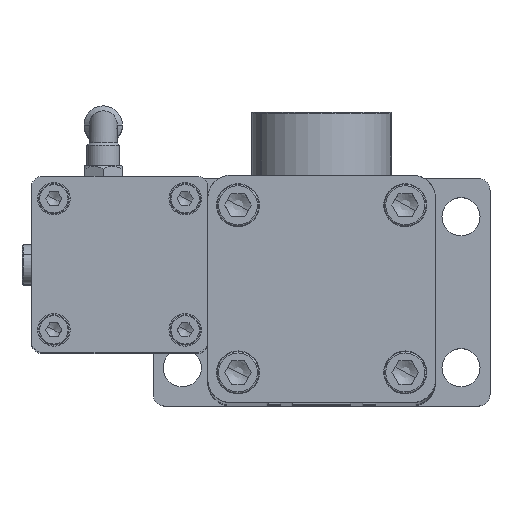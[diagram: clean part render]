
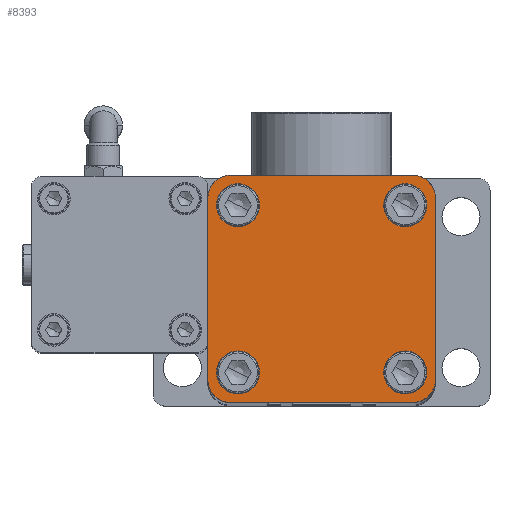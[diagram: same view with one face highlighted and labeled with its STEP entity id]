
A CAD part, top view. The second image highlights one B-rep face of the part: STEP entity #8393.
In plain terms, the highlighted planar face has unit normal (0, 0, 1).
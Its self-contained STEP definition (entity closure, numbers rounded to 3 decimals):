
#8047=CARTESIAN_POINT('Axis2P3D Location',(-39.,39.,956.)) ;
#8051=CARTESIAN_POINT('Vertex',(-49.,39.,956.)) ;
#8053=CARTESIAN_POINT('Vertex',(-39.,49.,956.)) ;
#8093=CARTESIAN_POINT('Vertex',(39.,49.,956.)) ;
#8101=CARTESIAN_POINT('Line Origine',(0.,49.,956.)) ;
#8118=CARTESIAN_POINT('Axis2P3D Location',(39.,39.,956.)) ;
#8122=CARTESIAN_POINT('Vertex',(49.,39.,956.)) ;
#8155=CARTESIAN_POINT('Vertex',(49.,-39.,956.)) ;
#8163=CARTESIAN_POINT('Line Origine',(49.,0.,956.)) ;
#8180=CARTESIAN_POINT('Axis2P3D Location',(39.,-39.,956.)) ;
#8184=CARTESIAN_POINT('Vertex',(39.,-49.,956.)) ;
#8217=CARTESIAN_POINT('Vertex',(-49.,-39.,956.)) ;
#8220=CARTESIAN_POINT('Line Origine',(-49.,0.,956.)) ;
#8248=CARTESIAN_POINT('Vertex',(-39.,-49.,956.)) ;
#8256=CARTESIAN_POINT('Line Origine',(0.,-49.,956.)) ;
#8294=CARTESIAN_POINT('Axis2P3D Location',(-39.,-39.,956.)) ;
#8306=CARTESIAN_POINT('Axis2P3D Location',(0.,0.,956.)) ;
#8321=CARTESIAN_POINT('Axis2P3D Location',(36.,36.,956.)) ;
#8325=CARTESIAN_POINT('Vertex',(45.25,36.,956.)) ;
#8327=CARTESIAN_POINT('Vertex',(26.75,36.,956.)) ;
#8330=CARTESIAN_POINT('Axis2P3D Location',(36.,36.,956.)) ;
#8339=CARTESIAN_POINT('Axis2P3D Location',(-36.,36.,956.)) ;
#8343=CARTESIAN_POINT('Vertex',(-26.75,36.,956.)) ;
#8345=CARTESIAN_POINT('Vertex',(-45.25,36.,956.)) ;
#8348=CARTESIAN_POINT('Axis2P3D Location',(-36.,36.,956.)) ;
#8357=CARTESIAN_POINT('Axis2P3D Location',(-36.,-36.,956.)) ;
#8361=CARTESIAN_POINT('Vertex',(-26.75,-36.,956.)) ;
#8363=CARTESIAN_POINT('Vertex',(-45.25,-36.,956.)) ;
#8366=CARTESIAN_POINT('Axis2P3D Location',(-36.,-36.,956.)) ;
#8375=CARTESIAN_POINT('Axis2P3D Location',(36.,-36.,956.)) ;
#8379=CARTESIAN_POINT('Vertex',(45.25,-36.,956.)) ;
#8381=CARTESIAN_POINT('Vertex',(26.75,-36.,956.)) ;
#8384=CARTESIAN_POINT('Axis2P3D Location',(36.,-36.,956.)) ;
#8048=DIRECTION('Axis2P3D Direction',(0.,0.,1.)) ;
#8102=DIRECTION('Vector Direction',(1.,0.,0.)) ;
#8119=DIRECTION('Axis2P3D Direction',(0.,-0.,1.)) ;
#8164=DIRECTION('Vector Direction',(0.,-1.,0.)) ;
#8181=DIRECTION('Axis2P3D Direction',(0.,0.,1.)) ;
#8221=DIRECTION('Vector Direction',(0.,1.,0.)) ;
#8257=DIRECTION('Vector Direction',(-1.,0.,0.)) ;
#8295=DIRECTION('Axis2P3D Direction',(0.,0.,1.)) ;
#8307=DIRECTION('Axis2P3D Direction',(0.,0.,1.)) ;
#8308=DIRECTION('Axis2P3D XDirection',(1.,0.,0.)) ;
#8322=DIRECTION('Axis2P3D Direction',(0.,0.,1.)) ;
#8331=DIRECTION('Axis2P3D Direction',(0.,0.,1.)) ;
#8340=DIRECTION('Axis2P3D Direction',(0.,0.,1.)) ;
#8349=DIRECTION('Axis2P3D Direction',(0.,0.,1.)) ;
#8358=DIRECTION('Axis2P3D Direction',(0.,0.,1.)) ;
#8367=DIRECTION('Axis2P3D Direction',(0.,0.,1.)) ;
#8376=DIRECTION('Axis2P3D Direction',(0.,0.,1.)) ;
#8385=DIRECTION('Axis2P3D Direction',(0.,0.,1.)) ;
#8049=AXIS2_PLACEMENT_3D('Circle Axis2P3D',#8047,#8048,$) ;
#8120=AXIS2_PLACEMENT_3D('Circle Axis2P3D',#8118,#8119,$) ;
#8182=AXIS2_PLACEMENT_3D('Circle Axis2P3D',#8180,#8181,$) ;
#8296=AXIS2_PLACEMENT_3D('Circle Axis2P3D',#8294,#8295,$) ;
#8309=AXIS2_PLACEMENT_3D('Plane Axis2P3D',#8306,#8307,#8308) ;
#8323=AXIS2_PLACEMENT_3D('Circle Axis2P3D',#8321,#8322,$) ;
#8332=AXIS2_PLACEMENT_3D('Circle Axis2P3D',#8330,#8331,$) ;
#8341=AXIS2_PLACEMENT_3D('Circle Axis2P3D',#8339,#8340,$) ;
#8350=AXIS2_PLACEMENT_3D('Circle Axis2P3D',#8348,#8349,$) ;
#8359=AXIS2_PLACEMENT_3D('Circle Axis2P3D',#8357,#8358,$) ;
#8368=AXIS2_PLACEMENT_3D('Circle Axis2P3D',#8366,#8367,$) ;
#8377=AXIS2_PLACEMENT_3D('Circle Axis2P3D',#8375,#8376,$) ;
#8386=AXIS2_PLACEMENT_3D('Circle Axis2P3D',#8384,#8385,$) ;
#8312=ORIENTED_EDGE('',*,*,#8260,.T.) ;
#8313=ORIENTED_EDGE('',*,*,#8186,.F.) ;
#8314=ORIENTED_EDGE('',*,*,#8167,.T.) ;
#8315=ORIENTED_EDGE('',*,*,#8124,.F.) ;
#8316=ORIENTED_EDGE('',*,*,#8105,.T.) ;
#8317=ORIENTED_EDGE('',*,*,#8055,.F.) ;
#8318=ORIENTED_EDGE('',*,*,#8224,.T.) ;
#8319=ORIENTED_EDGE('',*,*,#8298,.F.) ;
#8336=ORIENTED_EDGE('',*,*,#8329,.F.) ;
#8337=ORIENTED_EDGE('',*,*,#8334,.F.) ;
#8354=ORIENTED_EDGE('',*,*,#8347,.F.) ;
#8355=ORIENTED_EDGE('',*,*,#8352,.F.) ;
#8372=ORIENTED_EDGE('',*,*,#8365,.F.) ;
#8373=ORIENTED_EDGE('',*,*,#8370,.F.) ;
#8390=ORIENTED_EDGE('',*,*,#8383,.F.) ;
#8391=ORIENTED_EDGE('',*,*,#8388,.F.) ;
#8338=FACE_BOUND('',#8335,.T.) ;
#8356=FACE_BOUND('',#8353,.T.) ;
#8374=FACE_BOUND('',#8371,.T.) ;
#8392=FACE_BOUND('',#8389,.T.) ;
#8103=VECTOR('Line Direction',#8102,1.) ;
#8165=VECTOR('Line Direction',#8164,1.) ;
#8222=VECTOR('Line Direction',#8221,1.) ;
#8258=VECTOR('Line Direction',#8257,1.) ;
#8393=ADVANCED_FACE('PartBody',(#8320,#8338,#8356,#8374,#8392),#8310,.T.) ;
#8050=CIRCLE('generated circle',#8049,10.) ;
#8121=CIRCLE('generated circle',#8120,10.) ;
#8183=CIRCLE('generated circle',#8182,10.) ;
#8297=CIRCLE('generated circle',#8296,10.) ;
#8324=CIRCLE('generated circle',#8323,9.25) ;
#8333=CIRCLE('generated circle',#8332,9.25) ;
#8342=CIRCLE('generated circle',#8341,9.25) ;
#8351=CIRCLE('generated circle',#8350,9.25) ;
#8360=CIRCLE('generated circle',#8359,9.25) ;
#8369=CIRCLE('generated circle',#8368,9.25) ;
#8378=CIRCLE('generated circle',#8377,9.25) ;
#8387=CIRCLE('generated circle',#8386,9.25) ;
#8055=EDGE_CURVE('',#8052,#8054,#8050,.F.) ;
#8105=EDGE_CURVE('',#8094,#8054,#8104,.F.) ;
#8124=EDGE_CURVE('',#8094,#8123,#8121,.F.) ;
#8167=EDGE_CURVE('',#8156,#8123,#8166,.F.) ;
#8186=EDGE_CURVE('',#8156,#8185,#8183,.F.) ;
#8224=EDGE_CURVE('',#8052,#8218,#8223,.F.) ;
#8260=EDGE_CURVE('',#8249,#8185,#8259,.F.) ;
#8298=EDGE_CURVE('',#8249,#8218,#8297,.F.) ;
#8329=EDGE_CURVE('',#8326,#8328,#8324,.T.) ;
#8334=EDGE_CURVE('',#8328,#8326,#8333,.T.) ;
#8347=EDGE_CURVE('',#8344,#8346,#8342,.T.) ;
#8352=EDGE_CURVE('',#8346,#8344,#8351,.T.) ;
#8365=EDGE_CURVE('',#8362,#8364,#8360,.T.) ;
#8370=EDGE_CURVE('',#8364,#8362,#8369,.T.) ;
#8383=EDGE_CURVE('',#8380,#8382,#8378,.T.) ;
#8388=EDGE_CURVE('',#8382,#8380,#8387,.T.) ;
#8311=EDGE_LOOP('',(#8312,#8313,#8314,#8315,#8316,#8317,#8318,#8319)) ;
#8335=EDGE_LOOP('',(#8336,#8337)) ;
#8353=EDGE_LOOP('',(#8354,#8355)) ;
#8371=EDGE_LOOP('',(#8372,#8373)) ;
#8389=EDGE_LOOP('',(#8390,#8391)) ;
#8320=FACE_OUTER_BOUND('',#8311,.T.) ;
#8104=LINE('Line',#8101,#8103) ;
#8166=LINE('Line',#8163,#8165) ;
#8223=LINE('Line',#8220,#8222) ;
#8259=LINE('Line',#8256,#8258) ;
#8310=PLANE('',#8309) ;
#8052=VERTEX_POINT('',#8051) ;
#8054=VERTEX_POINT('',#8053) ;
#8094=VERTEX_POINT('',#8093) ;
#8123=VERTEX_POINT('',#8122) ;
#8156=VERTEX_POINT('',#8155) ;
#8185=VERTEX_POINT('',#8184) ;
#8218=VERTEX_POINT('',#8217) ;
#8249=VERTEX_POINT('',#8248) ;
#8326=VERTEX_POINT('',#8325) ;
#8328=VERTEX_POINT('',#8327) ;
#8344=VERTEX_POINT('',#8343) ;
#8346=VERTEX_POINT('',#8345) ;
#8362=VERTEX_POINT('',#8361) ;
#8364=VERTEX_POINT('',#8363) ;
#8380=VERTEX_POINT('',#8379) ;
#8382=VERTEX_POINT('',#8381) ;
